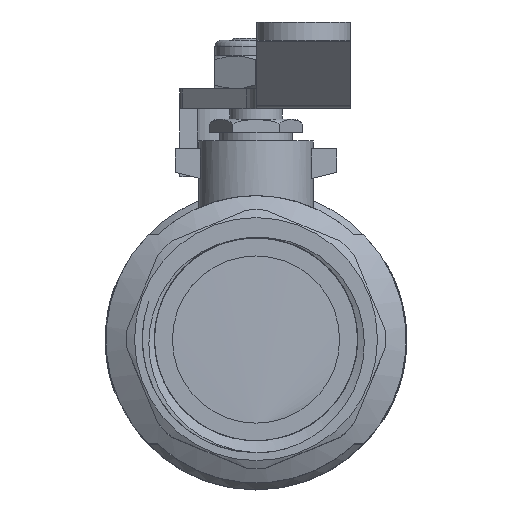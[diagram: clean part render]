
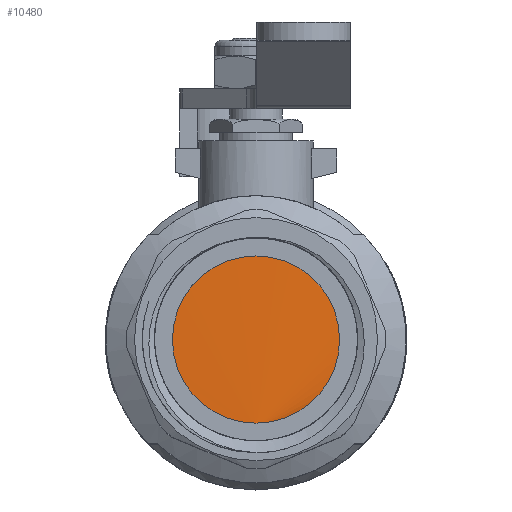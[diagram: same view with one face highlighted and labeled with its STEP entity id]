
A CAD part, top view. The second image highlights one B-rep face of the part: STEP entity #10480.
In plain terms, the highlighted cylindrical face has radius 17.144 mm (diameter 34.288 mm), a full revolution.
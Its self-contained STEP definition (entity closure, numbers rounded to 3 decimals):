
#1202=FACE_OUTER_BOUND('',#1801,.T.);
#1801=EDGE_LOOP('',(#7252,#7253,#7254));
#2492=B_SPLINE_CURVE_WITH_KNOTS('',3,(#15436,#15437,#15438,#15439,#15440,
#15441,#15442,#15443,#15444,#15445,#15446,#15447,#15448,#15449,#15450,#15451,
#15452),.UNSPECIFIED.,.F.,.F.,(4,1,1,1,1,1,1,1,1,1,1,1,1,1,4),(34.558,
34.77,35.267,35.763,36.26,36.757,
37.253,37.75,38.247,38.743,39.24,
39.737,40.233,40.73,40.841),
 .UNSPECIFIED.);
#2956=LINE('',#13792,#3695);
#2999=LINE('',#15401,#3738);
#3695=VECTOR('',#11727,17.144);
#3738=VECTOR('',#11854,17.144);
#4434=VERTEX_POINT('',#13790);
#4435=VERTEX_POINT('',#13791);
#4517=VERTEX_POINT('',#15400);
#5500=EDGE_CURVE('',#4434,#4435,#2956,.T.);
#5614=EDGE_CURVE('',#4435,#4517,#2999,.T.);
#5617=EDGE_CURVE('',#4434,#4517,#2492,.T.);
#7252=ORIENTED_EDGE('',*,*,#5500,.T.);
#7253=ORIENTED_EDGE('',*,*,#5614,.T.);
#7254=ORIENTED_EDGE('',*,*,#5617,.F.);
#10347=CYLINDRICAL_SURFACE('',#11104,17.144);
#10480=ADVANCED_FACE('',(#1202),#10347,.T.);
#11104=AXIS2_PLACEMENT_3D('',#15435,#11855,#11856);
#11727=DIRECTION('',(0.,0.,1.));
#11854=DIRECTION('',(0.,0.,1.));
#11855=DIRECTION('center_axis',(0.,0.,1.));
#11856=DIRECTION('ref_axis',(0.,1.,0.));
#13790=CARTESIAN_POINT('',(0.,-17.144,-41.78));
#13791=CARTESIAN_POINT('',(0.,-17.144,-39.58));
#13792=CARTESIAN_POINT('',(0.,-17.144,-54.53));
#15400=CARTESIAN_POINT('',(0.,-17.144,-39.48));
#15401=CARTESIAN_POINT('',(0.,-17.144,-54.53));
#15435=CARTESIAN_POINT('Origin',(0.,0.,-54.53));
#15436=CARTESIAN_POINT('Ctrl Pts',(0.,-17.142,
-41.78));
#15437=CARTESIAN_POINT('Ctrl Pts',(1.215,-17.143,-41.754));
#15438=CARTESIAN_POINT('Ctrl Pts',(5.268,-16.718,-41.667));
#15439=CARTESIAN_POINT('Ctrl Pts',(11.634,-13.557,-41.52));
#15440=CARTESIAN_POINT('Ctrl Pts',(16.688,-6.376,-41.338));
#15441=CARTESIAN_POINT('Ctrl Pts',(17.71,2.347,-41.157));
#15442=CARTESIAN_POINT('Ctrl Pts',(14.452,10.502,-40.975));
#15443=CARTESIAN_POINT('Ctrl Pts',(7.702,16.119,-40.793));
#15444=CARTESIAN_POINT('Ctrl Pts',(-0.91,17.842,
-40.611));
#15445=CARTESIAN_POINT('Ctrl Pts',(-9.301,15.252,-40.429));
#15446=CARTESIAN_POINT('Ctrl Pts',(-15.445,8.978,-40.248));
#15447=CARTESIAN_POINT('Ctrl Pts',(-17.857,0.533,
-40.066));
#15448=CARTESIAN_POINT('Ctrl Pts',(-15.953,-8.04,
-39.884));
#15449=CARTESIAN_POINT('Ctrl Pts',(-10.195,-14.67,-39.702));
#15450=CARTESIAN_POINT('Ctrl Pts',(-4.103,-16.956,-39.567));
#15451=CARTESIAN_POINT('Ctrl Pts',(-0.633,-17.145,
-39.493));
#15452=CARTESIAN_POINT('Ctrl Pts',(0.,-17.144,
-39.48));
